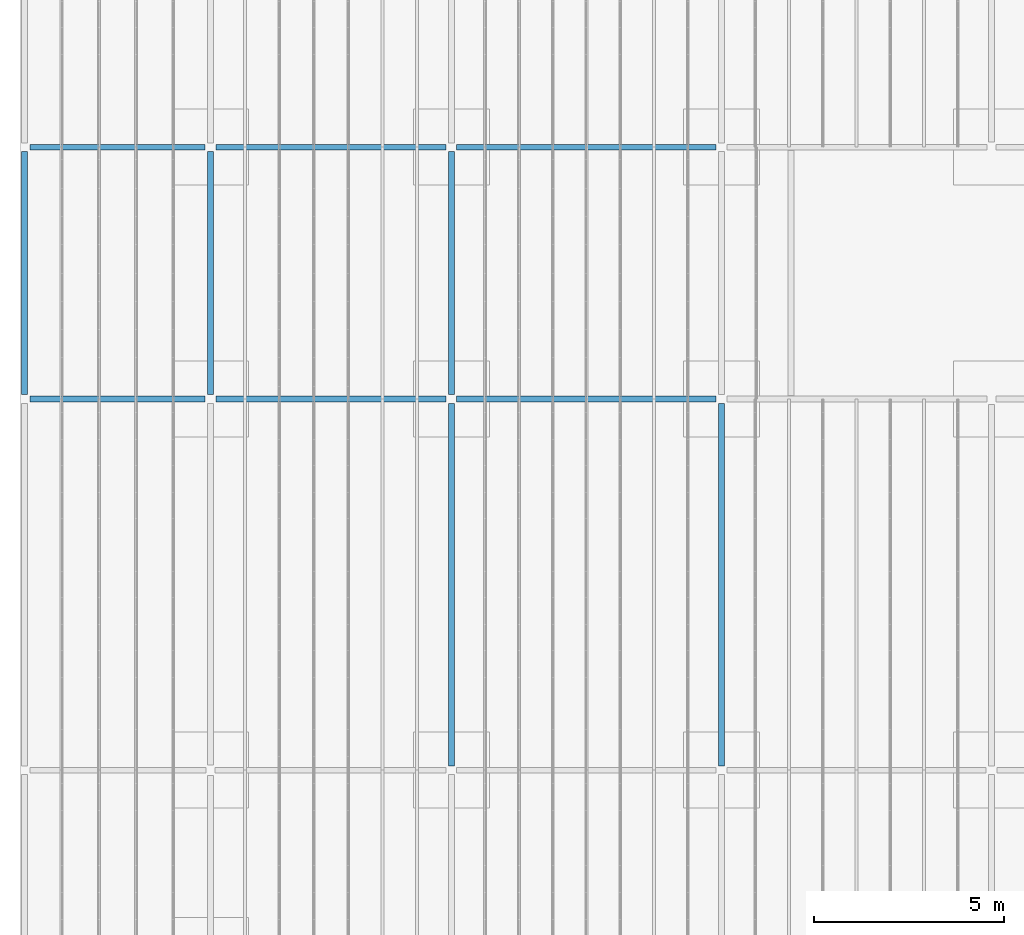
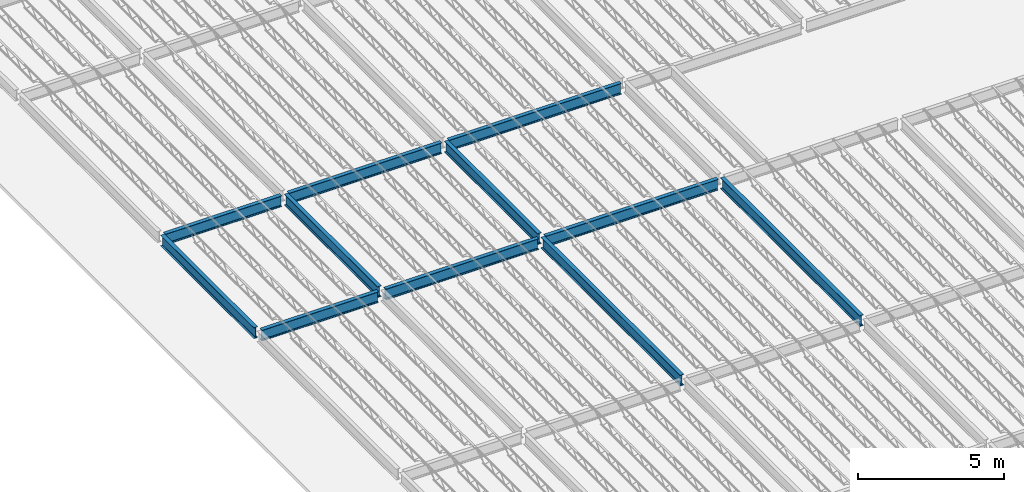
# One storey, part 7 of 75: 11 beams.
"""IFC2X3 building model written with IfcOpenShell, lengths in metres."""

from ifc_helpers import new_model, entity, si_unit, converted_unit, frame, frame_2d, origin, place, context, project, spatial, polyline, circle_curve, parameter, trimmed, segment, composite_curve, outline, extrude, material, element, save


model = new_model("IFC2X3")

# Units and contexts
model_context = context("Model", 3, precision=1e-09, world=origin())
plan_context = context("Plan", 3, precision=1e-09, world=origin())
ifc_project = project(units=[si_unit("LENGTHUNIT", "METRE"), si_unit("AREAUNIT", "SQUARE_METRE"), si_unit("VOLUMEUNIT", "CUBIC_METRE"), converted_unit("PLANEANGLEUNIT", "DEGREE", entity("IfcRatioMeasure", 0.01745329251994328), si_unit("PLANEANGLEUNIT", "RADIAN"), dimensions=[0, 0, 0, 0, 0, 0, 0]), si_unit("TIMEUNIT", "SECOND")], contexts=[model_context, plan_context])

# Site, building, storey
site_placement = place(None, origin())
site = spatial("IfcSite", under=ifc_project, at=site_placement, Name="Default", CompositionType="ELEMENT")
building_placement = place(site_placement, origin())
building = spatial("IfcBuilding", under=site, at=building_placement, CompositionType="ELEMENT")
storey_placement = place(building_placement, origin())
storey = spatial("IfcBuildingStorey", under=building, at=storey_placement, Name="First Floor", CompositionType="ELEMENT", Elevation=-3.531500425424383e-13)

# Beams
ifc_material = material(Name="Metal - Steel - 345 MPa")
beam_1_placement = place(storey_placement, frame((-40.66000000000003, 28.38140165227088, 4.46800000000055), z_axis=(0.0, 0.0, 1.0), x_axis=(-1.0, 0.0, 0.0)))
element("IfcBeam", 1, at=beam_1_placement, inside=storey, material=ifc_material, Name="M_W-Wide Flange:W460X60:W460X60", ObjectType="M_W-Wide Flange:W460X60", context=model_context, shape_type="SweptSolid", body=[
    extrude(outline(composite_curve([segment(polyline([(0.2141999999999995, -0.07649999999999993), (0.2275000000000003, -0.07649999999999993)]), True, "CONTINUOUS"), segment(polyline([(0.2275000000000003, -0.07649999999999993), (0.2275000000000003, 0.07649999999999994)]), True, "CONTINUOUS"), segment(polyline([(0.2275000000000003, 0.07649999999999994), (0.2141999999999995, 0.07649999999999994)]), True, "CONTINUOUS"), segment(polyline([(0.2141999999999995, 0.07649999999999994), (0.2141999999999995, 0.02170000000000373)]), True, "CONTINUOUS"), segment(trimmed(circle_curve(frame_2d((0.1964999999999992, 0.02170000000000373), x_axis=(1.0, 0.0)), 0.0177), [parameter(269.9999999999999)], [parameter(359.9999999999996)], True, "PARAMETER"), False, "CONTINUOUS"), segment(polyline([(0.1964999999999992, 0.003999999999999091), (-0.1965000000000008, 0.003999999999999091)]), True, "CONTINUOUS"), segment(trimmed(circle_curve(frame_2d((-0.1965000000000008, 0.02170000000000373), x_axis=(0.0, -1.0)), 0.0177), [parameter(269.9999999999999)], [parameter(359.9999999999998)], True, "PARAMETER"), False, "CONTINUOUS"), segment(polyline([(-0.2142000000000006, 0.02170000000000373), (-0.2142000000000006, 0.07649999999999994)]), True, "CONTINUOUS"), segment(polyline([(-0.2142000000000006, 0.07649999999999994), (-0.2274999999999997, 0.07649999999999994)]), True, "CONTINUOUS"), segment(polyline([(-0.2274999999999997, 0.07649999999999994), (-0.2274999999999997, -0.07649999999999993)]), True, "CONTINUOUS"), segment(polyline([(-0.2274999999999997, -0.07649999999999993), (-0.2142000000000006, -0.07649999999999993)]), True, "CONTINUOUS"), segment(polyline([(-0.2142000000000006, -0.07649999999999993), (-0.2142000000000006, -0.02170000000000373)]), True, "CONTINUOUS"), segment(trimmed(circle_curve(frame_2d((-0.1965000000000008, -0.02169999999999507), x_axis=(-1.0, 0.0)), 0.0177), [parameter(269.9999999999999)], [parameter(359.9999999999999)], True, "PARAMETER"), False, "CONTINUOUS"), segment(polyline([(-0.1965000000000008, -0.00399999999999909), (0.1964999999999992, -0.00399999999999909)]), True, "CONTINUOUS"), segment(trimmed(circle_curve(frame_2d((0.1964999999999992, -0.02169999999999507), x_axis=(0.0, 1.0)), 0.0177), [parameter(269.9999999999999)], [parameter(5.088887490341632e-14)], True, "PARAMETER"), False, "CONTINUOUS"), segment(polyline([(0.2141999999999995, -0.02170000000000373), (0.2141999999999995, -0.07649999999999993)]), True, "CONTINUOUS")], self_intersect=False)), frame((0.0, 9.656701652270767, -0.2275000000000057), z_axis=(0.0, -1.0, 0.0), x_axis=(0.0, 0.0, -1.0)), (0.0, 0.0, 1.0), 9.540600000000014),
])
beam_2_placement = place(storey_placement, frame((-33.55000000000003, 28.38140165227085, 4.46800000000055), z_axis=(0.0, 0.0, 1.0), x_axis=(-1.0, 0.0, 0.0)))
element("IfcBeam", 2, at=beam_2_placement, inside=storey, material=ifc_material, Name="M_W-Wide Flange:W460X60:W460X60", ObjectType="M_W-Wide Flange:W460X60", context=model_context, shape_type="SweptSolid", body=[
    extrude(outline(composite_curve([segment(polyline([(0.2141999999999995, -0.0764999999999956), (0.2275000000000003, -0.0764999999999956)]), True, "CONTINUOUS"), segment(polyline([(0.2275000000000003, -0.0764999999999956), (0.2275000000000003, 0.07650000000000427)]), True, "CONTINUOUS"), segment(polyline([(0.2275000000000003, 0.07650000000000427), (0.2141999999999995, 0.07650000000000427)]), True, "CONTINUOUS"), segment(polyline([(0.2141999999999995, 0.07650000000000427), (0.2141999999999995, 0.02170000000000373)]), True, "CONTINUOUS"), segment(trimmed(circle_curve(frame_2d((0.1964999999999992, 0.02170000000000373), x_axis=(1.0, 0.0)), 0.0177), [parameter(269.9999999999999)], [parameter(359.9999999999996)], True, "PARAMETER"), False, "CONTINUOUS"), segment(polyline([(0.1964999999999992, 0.004000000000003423), (-0.1965000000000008, 0.004000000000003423)]), True, "CONTINUOUS"), segment(trimmed(circle_curve(frame_2d((-0.1965000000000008, 0.02170000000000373), x_axis=(0.0, -1.0)), 0.0177), [parameter(269.9999999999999)], [parameter(359.9999999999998)], True, "PARAMETER"), False, "CONTINUOUS"), segment(polyline([(-0.2142000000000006, 0.02170000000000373), (-0.2142000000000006, 0.07650000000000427)]), True, "CONTINUOUS"), segment(polyline([(-0.2142000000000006, 0.07650000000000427), (-0.2274999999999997, 0.07650000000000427)]), True, "CONTINUOUS"), segment(polyline([(-0.2274999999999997, 0.07650000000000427), (-0.2274999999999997, -0.0764999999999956)]), True, "CONTINUOUS"), segment(polyline([(-0.2274999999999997, -0.0764999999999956), (-0.2142000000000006, -0.0764999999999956)]), True, "CONTINUOUS"), segment(polyline([(-0.2142000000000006, -0.0764999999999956), (-0.2142000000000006, -0.02169999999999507)]), True, "CONTINUOUS"), segment(trimmed(circle_curve(frame_2d((-0.1965000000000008, -0.02169999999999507), x_axis=(-1.0, 0.0)), 0.0177), [parameter(269.9999999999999)], [parameter(359.9999999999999)], True, "PARAMETER"), False, "CONTINUOUS"), segment(polyline([(-0.1965000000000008, -0.003999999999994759), (0.1964999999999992, -0.003999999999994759)]), True, "CONTINUOUS"), segment(trimmed(circle_curve(frame_2d((0.1964999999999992, -0.02169999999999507), x_axis=(0.0, 1.0)), 0.0177), [parameter(269.9999999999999)], [parameter(5.088887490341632e-14)], True, "PARAMETER"), False, "CONTINUOUS"), segment(polyline([(0.2141999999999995, -0.02169999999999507), (0.2141999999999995, -0.0764999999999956)]), True, "CONTINUOUS")], self_intersect=False)), frame((0.0, 9.656701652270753, -0.2275000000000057), z_axis=(0.0, -1.0, 0.0), x_axis=(0.0, 0.0, -1.0)), (0.0, 0.0, 1.0), 9.540600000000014),
])
beam_3_placement = place(storey_placement, frame((-51.90000000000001, 35.01206530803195, 4.468000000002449), z_axis=(0.0, 0.0, 1.0), x_axis=(-1.0, 0.0, 0.0)))
element("IfcBeam", 3, at=beam_3_placement, inside=storey, material=ifc_material, Name="M_W-Wide Flange:W460X60:W460X60", ObjectType="M_W-Wide Flange:W460X60", context=model_context, shape_type="SweptSolid", body=[
    extrude(outline(composite_curve([segment(polyline([(0.2142, -0.07649999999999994), (0.2275000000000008, -0.07649999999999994)]), True, "CONTINUOUS"), segment(polyline([(0.2275000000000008, -0.07649999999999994), (0.2275000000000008, 0.07649999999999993)]), True, "CONTINUOUS"), segment(polyline([(0.2275000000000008, 0.07649999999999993), (0.2142, 0.07649999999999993)]), True, "CONTINUOUS"), segment(polyline([(0.2142, 0.07649999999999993), (0.2142, 0.02170000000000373)]), True, "CONTINUOUS"), segment(trimmed(circle_curve(frame_2d((0.1964999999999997, 0.02170000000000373), x_axis=(1.0, 0.0)), 0.0177), [parameter(269.9999999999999)], [parameter(359.9999999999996)], True, "PARAMETER"), False, "CONTINUOUS"), segment(polyline([(0.1964999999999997, 0.00399999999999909), (-0.1965000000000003, 0.00399999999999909)]), True, "CONTINUOUS"), segment(trimmed(circle_curve(frame_2d((-0.1965000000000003, 0.02170000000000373), x_axis=(0.0, -1.0)), 0.0177), [parameter(269.9999999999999)], [parameter(359.9999999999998)], True, "PARAMETER"), False, "CONTINUOUS"), segment(polyline([(-0.2142000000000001, 0.02170000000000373), (-0.2142000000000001, 0.07649999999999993)]), True, "CONTINUOUS"), segment(polyline([(-0.2142000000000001, 0.07649999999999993), (-0.2274999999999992, 0.07649999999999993)]), True, "CONTINUOUS"), segment(polyline([(-0.2274999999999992, 0.07649999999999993), (-0.2274999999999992, -0.07649999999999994)]), True, "CONTINUOUS"), segment(polyline([(-0.2274999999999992, -0.07649999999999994), (-0.2142000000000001, -0.07649999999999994)]), True, "CONTINUOUS"), segment(polyline([(-0.2142000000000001, -0.07649999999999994), (-0.2142000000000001, -0.02170000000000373)]), True, "CONTINUOUS"), segment(trimmed(circle_curve(frame_2d((-0.1965000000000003, -0.02169999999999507), x_axis=(-1.0, 0.0)), 0.0177), [parameter(269.9999999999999)], [parameter(359.9999999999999)], True, "PARAMETER"), False, "CONTINUOUS"), segment(polyline([(-0.1965000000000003, -0.003999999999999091), (0.1964999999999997, -0.003999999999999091)]), True, "CONTINUOUS"), segment(trimmed(circle_curve(frame_2d((0.1964999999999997, -0.02169999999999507), x_axis=(0.0, 1.0)), 0.0177), [parameter(269.9999999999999)], [parameter(5.088887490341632e-14)], True, "PARAMETER"), False, "CONTINUOUS"), segment(polyline([(0.2142, -0.02170000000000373), (0.2142, -0.07649999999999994)]), True, "CONTINUOUS")], self_intersect=False)), frame((0.0, 6.51736530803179, -0.2275000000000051), z_axis=(0.0, -1.0, 0.0), x_axis=(0.0, 0.0, -1.0)), (0.0, 0.0, 1.0), 6.400599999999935),
])
beam_4_placement = place(storey_placement, frame((-40.65784025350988, 35.01000000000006, 4.404500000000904), z_axis=(0.0, 0.0, 1.0), x_axis=(0.0, 1.0, 0.0)))
element("IfcBeam", 4, at=beam_4_placement, inside=storey, material=ifc_material, Name="M_W-Wide Flange:W460X60:W460X60", ObjectType="M_W-Wide Flange:W460X60", context=model_context, shape_type="SweptSolid", body=[
    extrude(outline(composite_curve([segment(polyline([(0.2141999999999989, -0.0764999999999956), (0.2274999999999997, -0.0764999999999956)]), True, "CONTINUOUS"), segment(polyline([(0.2274999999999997, -0.0764999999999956), (0.2274999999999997, 0.07650000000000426)]), True, "CONTINUOUS"), segment(polyline([(0.2274999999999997, 0.07650000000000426), (0.2141999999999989, 0.07650000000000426)]), True, "CONTINUOUS"), segment(polyline([(0.2141999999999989, 0.07650000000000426), (0.2141999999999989, 0.02170000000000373)]), True, "CONTINUOUS"), segment(trimmed(circle_curve(frame_2d((0.1964999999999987, 0.02170000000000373), x_axis=(0.0, 1.0)), 0.0177), [parameter(180.0)], [parameter(269.9999999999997)], True, "PARAMETER"), False, "CONTINUOUS"), segment(polyline([(0.1964999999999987, 0.004000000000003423), (-0.1965000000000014, 0.004000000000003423)]), True, "CONTINUOUS"), segment(trimmed(circle_curve(frame_2d((-0.1965000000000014, 0.02170000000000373), x_axis=(0.0, 1.0)), 0.0177), [parameter(90.00000000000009)], [parameter(179.9999999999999)], True, "PARAMETER"), False, "CONTINUOUS"), segment(polyline([(-0.2142000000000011, 0.02170000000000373), (-0.2142000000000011, 0.07650000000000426)]), True, "CONTINUOUS"), segment(polyline([(-0.2142000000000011, 0.07650000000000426), (-0.2275000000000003, 0.07650000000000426)]), True, "CONTINUOUS"), segment(polyline([(-0.2275000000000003, 0.07650000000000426), (-0.2275000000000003, -0.0764999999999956)]), True, "CONTINUOUS"), segment(polyline([(-0.2275000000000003, -0.0764999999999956), (-0.2142000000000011, -0.0764999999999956)]), True, "CONTINUOUS"), segment(polyline([(-0.2142000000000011, -0.0764999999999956), (-0.2142000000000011, -0.02169999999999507)]), True, "CONTINUOUS"), segment(trimmed(circle_curve(frame_2d((-0.1965000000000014, -0.02169999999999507), x_axis=(0.0, 1.0)), 0.0177), [parameter(359.9999999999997)], [parameter(89.99999999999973)], True, "PARAMETER"), False, "CONTINUOUS"), segment(polyline([(-0.1965000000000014, -0.00399999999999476), (0.1964999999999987, -0.00399999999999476)]), True, "CONTINUOUS"), segment(trimmed(circle_curve(frame_2d((0.1964999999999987, -0.02169999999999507), x_axis=(0.0, 1.0)), 0.0177), [parameter(269.9999999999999)], [parameter(0.0)], True, "PARAMETER"), False, "CONTINUOUS"), segment(polyline([(0.2141999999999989, -0.02169999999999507), (0.2141999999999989, -0.0764999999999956)]), True, "CONTINUOUS")], self_intersect=False)), frame((0.0, 6.2009597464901, -0.2275000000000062), z_axis=(0.0, -1.0, 0.0), x_axis=(0.0, 0.0, -1.0)), (0.0, 0.0, 1.0), 6.05759999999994),
])
beam_5_placement = place(storey_placement, frame((-47.0, 28.37793469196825, 4.468000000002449)))
element("IfcBeam", 5, at=beam_5_placement, inside=storey, material=ifc_material, Name="M_W-Wide Flange:W460X60:W460X60", ObjectType="M_W-Wide Flange:W460X60", context=model_context, shape_type="SweptSolid", body=[
    extrude(outline(composite_curve([segment(polyline([(-0.07649999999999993, -0.2142), (-0.07649999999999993, -0.2275000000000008)]), True, "CONTINUOUS"), segment(polyline([(-0.07649999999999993, -0.2275000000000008), (0.07649999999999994, -0.2275000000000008)]), True, "CONTINUOUS"), segment(polyline([(0.07649999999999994, -0.2275000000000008), (0.07649999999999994, -0.2142)]), True, "CONTINUOUS"), segment(polyline([(0.07649999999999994, -0.2142), (0.02170000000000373, -0.2142)]), True, "CONTINUOUS"), segment(trimmed(circle_curve(frame_2d((0.02169999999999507, -0.1964999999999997), x_axis=(0.0, -1.0)), 0.0177), [parameter(269.9999999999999)], [parameter(359.9999999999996)], True, "PARAMETER"), False, "CONTINUOUS"), segment(polyline([(0.00399999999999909, -0.1964999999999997), (0.00399999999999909, 0.1965000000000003)]), True, "CONTINUOUS"), segment(trimmed(circle_curve(frame_2d((0.02169999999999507, 0.1965000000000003), x_axis=(-1.0, 0.0)), 0.0177), [parameter(269.9999999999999)], [parameter(359.9999999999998)], True, "PARAMETER"), False, "CONTINUOUS"), segment(polyline([(0.02170000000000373, 0.2142000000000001), (0.07649999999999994, 0.2142000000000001)]), True, "CONTINUOUS"), segment(polyline([(0.07649999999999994, 0.2142000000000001), (0.07649999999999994, 0.2274999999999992)]), True, "CONTINUOUS"), segment(polyline([(0.07649999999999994, 0.2274999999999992), (-0.07649999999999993, 0.2274999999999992)]), True, "CONTINUOUS"), segment(polyline([(-0.07649999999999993, 0.2274999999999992), (-0.07649999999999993, 0.2142000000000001)]), True, "CONTINUOUS"), segment(polyline([(-0.07649999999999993, 0.2142000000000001), (-0.02170000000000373, 0.2142000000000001)]), True, "CONTINUOUS"), segment(trimmed(circle_curve(frame_2d((-0.02170000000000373, 0.1965000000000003), x_axis=(0.0, 1.0)), 0.0177), [parameter(269.9999999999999)], [parameter(359.9999999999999)], True, "PARAMETER"), False, "CONTINUOUS"), segment(polyline([(-0.003999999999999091, 0.1965000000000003), (-0.003999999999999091, -0.1964999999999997)]), True, "CONTINUOUS"), segment(trimmed(circle_curve(frame_2d((-0.02170000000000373, -0.1964999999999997), x_axis=(1.0, 0.0)), 0.0177), [parameter(269.9999999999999)], [parameter(5.088887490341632e-14)], True, "PARAMETER"), False, "CONTINUOUS"), segment(polyline([(-0.02170000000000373, -0.2142), (-0.07649999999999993, -0.2142)]), True, "CONTINUOUS")], self_intersect=False)), frame((0.0, 0.1167653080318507, -0.2275000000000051), z_axis=(0.0, -1.0, 0.0), x_axis=(1.0, 0.0, 0.0)), (0.0, 0.0, -1.0), 6.400599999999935),
])
beam_6_placement = place(storey_placement, frame((-40.66000000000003, 35.01206530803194, 4.46800000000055), z_axis=(0.0, 0.0, 1.0), x_axis=(-1.0, 0.0, 0.0)))
element("IfcBeam", 6, at=beam_6_placement, inside=storey, material=ifc_material, Name="M_W-Wide Flange:W460X60:W460X60", ObjectType="M_W-Wide Flange:W460X60", context=model_context, shape_type="SweptSolid", body=[
    extrude(outline(composite_curve([segment(polyline([(0.2141999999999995, -0.07649999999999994), (0.2275000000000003, -0.07649999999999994)]), True, "CONTINUOUS"), segment(polyline([(0.2275000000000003, -0.07649999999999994), (0.2275000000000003, 0.07649999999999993)]), True, "CONTINUOUS"), segment(polyline([(0.2275000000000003, 0.07649999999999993), (0.2141999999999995, 0.07649999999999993)]), True, "CONTINUOUS"), segment(polyline([(0.2141999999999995, 0.07649999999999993), (0.2141999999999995, 0.02170000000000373)]), True, "CONTINUOUS"), segment(trimmed(circle_curve(frame_2d((0.1964999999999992, 0.02170000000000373), x_axis=(1.0, 0.0)), 0.0177), [parameter(269.9999999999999)], [parameter(359.9999999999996)], True, "PARAMETER"), False, "CONTINUOUS"), segment(polyline([(0.1964999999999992, 0.00399999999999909), (-0.1965000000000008, 0.00399999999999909)]), True, "CONTINUOUS"), segment(trimmed(circle_curve(frame_2d((-0.1965000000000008, 0.02170000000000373), x_axis=(0.0, -1.0)), 0.0177), [parameter(269.9999999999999)], [parameter(359.9999999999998)], True, "PARAMETER"), False, "CONTINUOUS"), segment(polyline([(-0.2142000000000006, 0.02170000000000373), (-0.2142000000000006, 0.07649999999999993)]), True, "CONTINUOUS"), segment(polyline([(-0.2142000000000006, 0.07649999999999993), (-0.2274999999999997, 0.07649999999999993)]), True, "CONTINUOUS"), segment(polyline([(-0.2274999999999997, 0.07649999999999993), (-0.2274999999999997, -0.07649999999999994)]), True, "CONTINUOUS"), segment(polyline([(-0.2274999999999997, -0.07649999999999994), (-0.2142000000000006, -0.07649999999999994)]), True, "CONTINUOUS"), segment(polyline([(-0.2142000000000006, -0.07649999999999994), (-0.2142000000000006, -0.02170000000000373)]), True, "CONTINUOUS"), segment(trimmed(circle_curve(frame_2d((-0.1965000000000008, -0.02169999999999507), x_axis=(-1.0, 0.0)), 0.0177), [parameter(269.9999999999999)], [parameter(359.9999999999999)], True, "PARAMETER"), False, "CONTINUOUS"), segment(polyline([(-0.1965000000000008, -0.003999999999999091), (0.1964999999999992, -0.003999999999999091)]), True, "CONTINUOUS"), segment(trimmed(circle_curve(frame_2d((0.1964999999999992, -0.02169999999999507), x_axis=(0.0, 1.0)), 0.0177), [parameter(269.9999999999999)], [parameter(5.088887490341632e-14)], True, "PARAMETER"), False, "CONTINUOUS"), segment(polyline([(0.2141999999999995, -0.02170000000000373), (0.2141999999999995, -0.07649999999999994)]), True, "CONTINUOUS")], self_intersect=False)), frame((0.0, 6.517365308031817, -0.2275000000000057), z_axis=(0.0, -1.0, 0.0), x_axis=(0.0, 0.0, -1.0)), (0.0, 0.0, 1.0), 6.400599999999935),
])
beam_7_placement = place(storey_placement, frame((-33.54807408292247, 28.38000000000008, 4.404500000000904), z_axis=(0.0, 0.0, 1.0), x_axis=(0.0, 1.0, 0.0)))
element("IfcBeam", 7, at=beam_7_placement, inside=storey, material=ifc_material, Name="M_W-Wide Flange:W460X60:W460X60", ObjectType="M_W-Wide Flange:W460X60", context=model_context, shape_type="SweptSolid", body=[
    extrude(outline(composite_curve([segment(polyline([(0.2141999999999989, -0.07649999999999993), (0.2274999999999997, -0.07649999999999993)]), True, "CONTINUOUS"), segment(polyline([(0.2274999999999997, -0.07649999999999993), (0.2274999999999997, 0.07649999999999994)]), True, "CONTINUOUS"), segment(polyline([(0.2274999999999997, 0.07649999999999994), (0.2141999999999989, 0.07649999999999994)]), True, "CONTINUOUS"), segment(polyline([(0.2141999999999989, 0.07649999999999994), (0.2141999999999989, 0.0216999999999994)]), True, "CONTINUOUS"), segment(trimmed(circle_curve(frame_2d((0.1964999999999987, 0.0216999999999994), x_axis=(1.0, 0.0)), 0.0177), [parameter(269.9999999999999)], [parameter(359.9999999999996)], True, "PARAMETER"), False, "CONTINUOUS"), segment(polyline([(0.1964999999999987, 0.00399999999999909), (-0.1965000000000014, 0.00399999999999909)]), True, "CONTINUOUS"), segment(trimmed(circle_curve(frame_2d((-0.1965000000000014, 0.0216999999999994), x_axis=(0.0, -1.0)), 0.0177), [parameter(269.9999999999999)], [parameter(359.9999999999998)], True, "PARAMETER"), False, "CONTINUOUS"), segment(polyline([(-0.2142000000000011, 0.0216999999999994), (-0.2142000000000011, 0.07649999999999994)]), True, "CONTINUOUS"), segment(polyline([(-0.2142000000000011, 0.07649999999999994), (-0.2275000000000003, 0.07649999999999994)]), True, "CONTINUOUS"), segment(polyline([(-0.2275000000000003, 0.07649999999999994), (-0.2275000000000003, -0.07649999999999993)]), True, "CONTINUOUS"), segment(polyline([(-0.2275000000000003, -0.07649999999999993), (-0.2142000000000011, -0.07649999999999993)]), True, "CONTINUOUS"), segment(polyline([(-0.2142000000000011, -0.07649999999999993), (-0.2142000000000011, -0.0216999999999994)]), True, "CONTINUOUS"), segment(trimmed(circle_curve(frame_2d((-0.1965000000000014, -0.0216999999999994), x_axis=(-1.0, 0.0)), 0.0177), [parameter(269.9999999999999)], [parameter(359.9999999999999)], True, "PARAMETER"), False, "CONTINUOUS"), segment(polyline([(-0.1965000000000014, -0.003999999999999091), (0.1964999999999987, -0.003999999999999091)]), True, "CONTINUOUS"), segment(trimmed(circle_curve(frame_2d((0.1964999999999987, -0.0216999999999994), x_axis=(0.0, 1.0)), 0.0177), [parameter(269.9999999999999)], [parameter(5.088887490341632e-14)], True, "PARAMETER"), False, "CONTINUOUS"), segment(polyline([(0.2141999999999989, -0.0216999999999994), (0.2141999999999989, -0.07649999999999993)]), True, "CONTINUOUS")], self_intersect=False)), frame((0.0, 6.970725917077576, -0.2275000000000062), z_axis=(0.0, -1.0, 0.0), x_axis=(0.0, 0.0, -1.0)), (0.0, 0.0, 1.0), 6.827600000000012),
])
beam_8_placement = place(storey_placement, frame((-40.65784025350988, 28.38000000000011, 4.404500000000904), z_axis=(0.0, 0.0, 1.0), x_axis=(0.0, 1.0, 0.0)))
element("IfcBeam", 8, at=beam_8_placement, inside=storey, material=ifc_material, Name="M_W-Wide Flange:W460X60:W460X60", ObjectType="M_W-Wide Flange:W460X60", context=model_context, shape_type="SweptSolid", body=[
    extrude(outline(composite_curve([segment(polyline([(0.2141999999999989, -0.07650000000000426), (0.2274999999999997, -0.07650000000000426)]), True, "CONTINUOUS"), segment(polyline([(0.2274999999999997, -0.07650000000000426), (0.2274999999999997, 0.0764999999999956)]), True, "CONTINUOUS"), segment(polyline([(0.2274999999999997, 0.0764999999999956), (0.2141999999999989, 0.0764999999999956)]), True, "CONTINUOUS"), segment(polyline([(0.2141999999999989, 0.0764999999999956), (0.2141999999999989, 0.02169999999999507)]), True, "CONTINUOUS"), segment(trimmed(circle_curve(frame_2d((0.1964999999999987, 0.02169999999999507), x_axis=(0.0, 1.0)), 0.0177), [parameter(180.0)], [parameter(269.9999999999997)], True, "PARAMETER"), False, "CONTINUOUS"), segment(polyline([(0.1964999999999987, 0.00399999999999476), (-0.1965000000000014, 0.00399999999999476)]), True, "CONTINUOUS"), segment(trimmed(circle_curve(frame_2d((-0.1965000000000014, 0.02169999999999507), x_axis=(0.0, 1.0)), 0.0177), [parameter(90.00000000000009)], [parameter(179.9999999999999)], True, "PARAMETER"), False, "CONTINUOUS"), segment(polyline([(-0.2142000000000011, 0.02169999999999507), (-0.2142000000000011, 0.0764999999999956)]), True, "CONTINUOUS"), segment(polyline([(-0.2142000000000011, 0.0764999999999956), (-0.2275000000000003, 0.0764999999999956)]), True, "CONTINUOUS"), segment(polyline([(-0.2275000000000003, 0.0764999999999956), (-0.2275000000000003, -0.07650000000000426)]), True, "CONTINUOUS"), segment(polyline([(-0.2275000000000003, -0.07650000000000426), (-0.2142000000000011, -0.07650000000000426)]), True, "CONTINUOUS"), segment(polyline([(-0.2142000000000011, -0.07650000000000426), (-0.2142000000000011, -0.02170000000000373)]), True, "CONTINUOUS"), segment(trimmed(circle_curve(frame_2d((-0.1965000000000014, -0.02170000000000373), x_axis=(0.0, 1.0)), 0.0177), [parameter(359.9999999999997)], [parameter(89.99999999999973)], True, "PARAMETER"), False, "CONTINUOUS"), segment(polyline([(-0.1965000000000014, -0.004000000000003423), (0.1964999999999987, -0.004000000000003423)]), True, "CONTINUOUS"), segment(trimmed(circle_curve(frame_2d((0.1964999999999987, -0.02170000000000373), x_axis=(0.0, 1.0)), 0.0177), [parameter(269.9999999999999)], [parameter(0.0)], True, "PARAMETER"), False, "CONTINUOUS"), segment(polyline([(0.2141999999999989, -0.02170000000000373), (0.2141999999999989, -0.07650000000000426)]), True, "CONTINUOUS")], self_intersect=False)), frame((0.0, 6.200959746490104, -0.2275000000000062), z_axis=(0.0, -1.0, 0.0), x_axis=(0.0, 0.0, -1.0)), (0.0, 0.0, 1.0), 6.05759999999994),
])
beam_9_placement = place(storey_placement, frame((-46.99720587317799, 28.38000000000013, 4.404500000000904), z_axis=(0.0, 0.0, 1.0), x_axis=(0.0, 1.0, 0.0)))
element("IfcBeam", 9, at=beam_9_placement, inside=storey, material=ifc_material, Name="M_W-Wide Flange:W460X60:W460X60", ObjectType="M_W-Wide Flange:W460X60", context=model_context, shape_type="SweptSolid", body=[
    extrude(outline(composite_curve([segment(polyline([(0.2141999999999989, -0.07649999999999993), (0.2274999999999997, -0.07649999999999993)]), True, "CONTINUOUS"), segment(polyline([(0.2274999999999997, -0.07649999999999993), (0.2274999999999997, 0.07649999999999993)]), True, "CONTINUOUS"), segment(polyline([(0.2274999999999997, 0.07649999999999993), (0.2141999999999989, 0.07649999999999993)]), True, "CONTINUOUS"), segment(polyline([(0.2141999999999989, 0.07649999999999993), (0.2141999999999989, 0.0216999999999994)]), True, "CONTINUOUS"), segment(trimmed(circle_curve(frame_2d((0.1964999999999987, 0.0216999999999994), x_axis=(0.0, 1.0)), 0.0177), [parameter(180.0)], [parameter(269.9999999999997)], True, "PARAMETER"), False, "CONTINUOUS"), segment(polyline([(0.1964999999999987, 0.003999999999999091), (-0.1965000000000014, 0.003999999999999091)]), True, "CONTINUOUS"), segment(trimmed(circle_curve(frame_2d((-0.1965000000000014, 0.0216999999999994), x_axis=(0.0, 1.0)), 0.0177), [parameter(90.00000000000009)], [parameter(179.9999999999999)], True, "PARAMETER"), False, "CONTINUOUS"), segment(polyline([(-0.2142000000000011, 0.0216999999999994), (-0.2142000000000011, 0.07649999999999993)]), True, "CONTINUOUS"), segment(polyline([(-0.2142000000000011, 0.07649999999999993), (-0.2275000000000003, 0.07649999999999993)]), True, "CONTINUOUS"), segment(polyline([(-0.2275000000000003, 0.07649999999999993), (-0.2275000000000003, -0.07649999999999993)]), True, "CONTINUOUS"), segment(polyline([(-0.2275000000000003, -0.07649999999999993), (-0.2142000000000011, -0.07649999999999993)]), True, "CONTINUOUS"), segment(polyline([(-0.2142000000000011, -0.07649999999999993), (-0.2142000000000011, -0.0216999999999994)]), True, "CONTINUOUS"), segment(trimmed(circle_curve(frame_2d((-0.1965000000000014, -0.0216999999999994), x_axis=(0.0, 1.0)), 0.0177), [parameter(359.9999999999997)], [parameter(89.99999999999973)], True, "PARAMETER"), False, "CONTINUOUS"), segment(polyline([(-0.1965000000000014, -0.003999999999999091), (0.1964999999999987, -0.003999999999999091)]), True, "CONTINUOUS"), segment(trimmed(circle_curve(frame_2d((0.1964999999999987, -0.0216999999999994), x_axis=(0.0, 1.0)), 0.0177), [parameter(269.9999999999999)], [parameter(0.0)], True, "PARAMETER"), False, "CONTINUOUS"), segment(polyline([(0.2141999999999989, -0.0216999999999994), (0.2141999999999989, -0.07649999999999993)]), True, "CONTINUOUS")], self_intersect=False)), frame((0.0, 4.761594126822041, -0.2275000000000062), z_axis=(0.0, -1.0, 0.0), x_axis=(0.0, 0.0, -1.0)), (0.0, 0.0, 1.0), 4.617600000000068),
])
beam_10_placement = place(storey_placement, frame((-33.54807408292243, 35.01000000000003, 4.404500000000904), z_axis=(0.0, 0.0, 1.0), x_axis=(0.0, 1.0, 0.0)))
element("IfcBeam", 10, at=beam_10_placement, inside=storey, material=ifc_material, Name="M_W-Wide Flange:W460X60:W460X60", ObjectType="M_W-Wide Flange:W460X60", context=model_context, shape_type="SweptSolid", body=[
    extrude(outline(composite_curve([segment(polyline([(0.2141999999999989, -0.07649999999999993), (0.2274999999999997, -0.07649999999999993)]), True, "CONTINUOUS"), segment(polyline([(0.2274999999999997, -0.07649999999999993), (0.2274999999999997, 0.07649999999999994)]), True, "CONTINUOUS"), segment(polyline([(0.2274999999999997, 0.07649999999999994), (0.2141999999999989, 0.07649999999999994)]), True, "CONTINUOUS"), segment(polyline([(0.2141999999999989, 0.07649999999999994), (0.2141999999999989, 0.0216999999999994)]), True, "CONTINUOUS"), segment(trimmed(circle_curve(frame_2d((0.1964999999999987, 0.0216999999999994), x_axis=(1.0, 0.0)), 0.0177), [parameter(269.9999999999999)], [parameter(359.9999999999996)], True, "PARAMETER"), False, "CONTINUOUS"), segment(polyline([(0.1964999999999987, 0.00399999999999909), (-0.1965000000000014, 0.00399999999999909)]), True, "CONTINUOUS"), segment(trimmed(circle_curve(frame_2d((-0.1965000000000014, 0.0216999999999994), x_axis=(0.0, -1.0)), 0.0177), [parameter(269.9999999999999)], [parameter(359.9999999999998)], True, "PARAMETER"), False, "CONTINUOUS"), segment(polyline([(-0.2142000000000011, 0.0216999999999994), (-0.2142000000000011, 0.07649999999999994)]), True, "CONTINUOUS"), segment(polyline([(-0.2142000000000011, 0.07649999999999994), (-0.2275000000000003, 0.07649999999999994)]), True, "CONTINUOUS"), segment(polyline([(-0.2275000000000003, 0.07649999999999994), (-0.2275000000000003, -0.07649999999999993)]), True, "CONTINUOUS"), segment(polyline([(-0.2275000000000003, -0.07649999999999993), (-0.2142000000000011, -0.07649999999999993)]), True, "CONTINUOUS"), segment(polyline([(-0.2142000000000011, -0.07649999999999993), (-0.2142000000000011, -0.0216999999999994)]), True, "CONTINUOUS"), segment(trimmed(circle_curve(frame_2d((-0.1965000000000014, -0.0216999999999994), x_axis=(-1.0, 0.0)), 0.0177), [parameter(269.9999999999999)], [parameter(359.9999999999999)], True, "PARAMETER"), False, "CONTINUOUS"), segment(polyline([(-0.1965000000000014, -0.003999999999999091), (0.1964999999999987, -0.003999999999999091)]), True, "CONTINUOUS"), segment(trimmed(circle_curve(frame_2d((0.1964999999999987, -0.0216999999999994), x_axis=(0.0, 1.0)), 0.0177), [parameter(269.9999999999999)], [parameter(5.088887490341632e-14)], True, "PARAMETER"), False, "CONTINUOUS"), segment(polyline([(0.2141999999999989, -0.0216999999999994), (0.2141999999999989, -0.07649999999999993)]), True, "CONTINUOUS")], self_intersect=False)), frame((0.0, 6.970725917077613, -0.2275000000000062), z_axis=(0.0, -1.0, 0.0), x_axis=(0.0, 0.0, -1.0)), (0.0, 0.0, 1.0), 6.827600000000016),
])
beam_11_placement = place(storey_placement, frame((-46.99720587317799, 35.01000000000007, 4.404500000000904), z_axis=(0.0, 0.0, 1.0), x_axis=(0.0, 1.0, 0.0)))
element("IfcBeam", 11, at=beam_11_placement, inside=storey, material=ifc_material, Name="M_W-Wide Flange:W460X60:W460X60", ObjectType="M_W-Wide Flange:W460X60", context=model_context, shape_type="SweptSolid", body=[
    extrude(outline(composite_curve([segment(polyline([(0.2141999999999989, -0.07649999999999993), (0.2274999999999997, -0.07649999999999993)]), True, "CONTINUOUS"), segment(polyline([(0.2274999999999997, -0.07649999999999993), (0.2274999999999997, 0.07649999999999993)]), True, "CONTINUOUS"), segment(polyline([(0.2274999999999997, 0.07649999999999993), (0.2141999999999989, 0.07649999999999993)]), True, "CONTINUOUS"), segment(polyline([(0.2141999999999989, 0.07649999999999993), (0.2141999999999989, 0.0216999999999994)]), True, "CONTINUOUS"), segment(trimmed(circle_curve(frame_2d((0.1964999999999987, 0.0216999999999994), x_axis=(0.0, 1.0)), 0.0177), [parameter(180.0)], [parameter(269.9999999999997)], True, "PARAMETER"), False, "CONTINUOUS"), segment(polyline([(0.1964999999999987, 0.003999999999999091), (-0.1965000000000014, 0.003999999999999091)]), True, "CONTINUOUS"), segment(trimmed(circle_curve(frame_2d((-0.1965000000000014, 0.0216999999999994), x_axis=(0.0, 1.0)), 0.0177), [parameter(90.00000000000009)], [parameter(179.9999999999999)], True, "PARAMETER"), False, "CONTINUOUS"), segment(polyline([(-0.2142000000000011, 0.0216999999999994), (-0.2142000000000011, 0.07649999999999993)]), True, "CONTINUOUS"), segment(polyline([(-0.2142000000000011, 0.07649999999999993), (-0.2275000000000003, 0.07649999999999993)]), True, "CONTINUOUS"), segment(polyline([(-0.2275000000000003, 0.07649999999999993), (-0.2275000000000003, -0.07649999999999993)]), True, "CONTINUOUS"), segment(polyline([(-0.2275000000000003, -0.07649999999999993), (-0.2142000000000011, -0.07649999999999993)]), True, "CONTINUOUS"), segment(polyline([(-0.2142000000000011, -0.07649999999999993), (-0.2142000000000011, -0.0216999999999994)]), True, "CONTINUOUS"), segment(trimmed(circle_curve(frame_2d((-0.1965000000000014, -0.0216999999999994), x_axis=(0.0, 1.0)), 0.0177), [parameter(359.9999999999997)], [parameter(89.99999999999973)], True, "PARAMETER"), False, "CONTINUOUS"), segment(polyline([(-0.1965000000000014, -0.003999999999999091), (0.1964999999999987, -0.003999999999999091)]), True, "CONTINUOUS"), segment(trimmed(circle_curve(frame_2d((0.1964999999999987, -0.0216999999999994), x_axis=(0.0, 1.0)), 0.0177), [parameter(269.9999999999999)], [parameter(0.0)], True, "PARAMETER"), False, "CONTINUOUS"), segment(polyline([(0.2141999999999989, -0.0216999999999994), (0.2141999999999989, -0.07649999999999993)]), True, "CONTINUOUS")], self_intersect=False)), frame((0.0, 4.761594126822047, -0.2275000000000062), z_axis=(0.0, -1.0, 0.0), x_axis=(0.0, 0.0, -1.0)), (0.0, 0.0, 1.0), 4.617600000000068),
])

save(model, "model.ifc")
